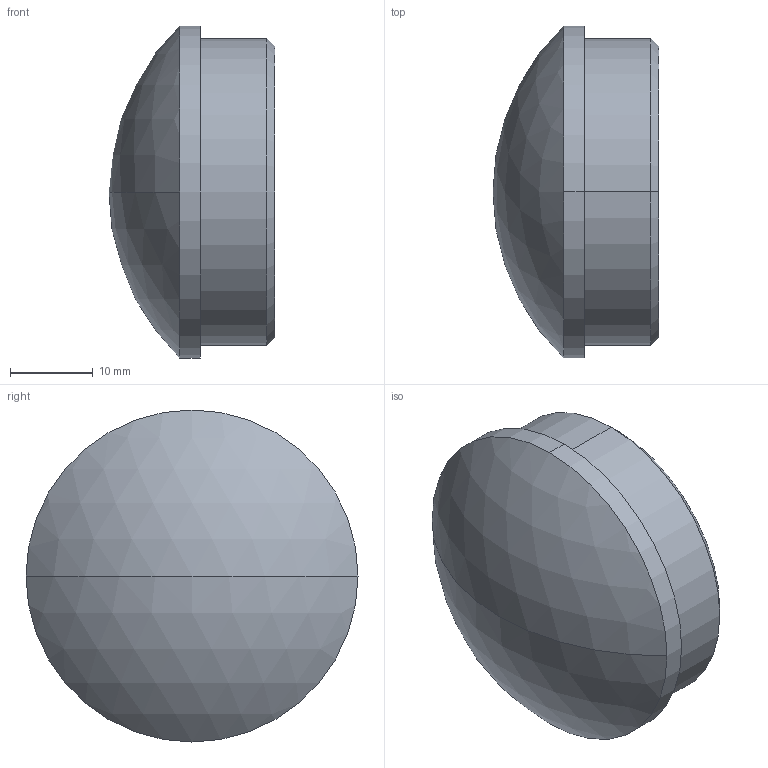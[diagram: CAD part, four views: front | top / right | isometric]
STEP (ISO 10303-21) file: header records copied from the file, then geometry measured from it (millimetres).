
FILE_DESCRIPTION (( 'STEP AP203' ), '1' );
FILE_NAME ('3D_GR1392_DN40x1.5_18380210.STEP', '2024-09-21T10:18:33', ( '' ), ( '' ), 'SwSTEP 2.0', 'SolidWorks 2024', '' );
FILE_SCHEMA (( 'CONFIG_CONTROL_DESIGN' ));
Length unit declared in the file: millimetre
Products named in the file (1): 3D_GR1392_DN40x1.5_18380210
Bounding box: 20 x 40 x 40 mm (x, y, z)
Volume: 18423.7 mm3; surface area: 4031.2 mm2
Topology: 1 solids, 1 shells, 10 faces, 20 edges, 13 vertices
Faces by surface type: cylinder 4, cone 2, sphere 2, plane 2
Entity records: 347 total; most frequent: DIRECTION 56, CARTESIAN_POINT 44, ORIENTED_EDGE 40, AXIS2_PLACEMENT_3D 25, EDGE_CURVE 20, CIRCLE 14, VERTEX_POINT 13, EDGE_LOOP 11
